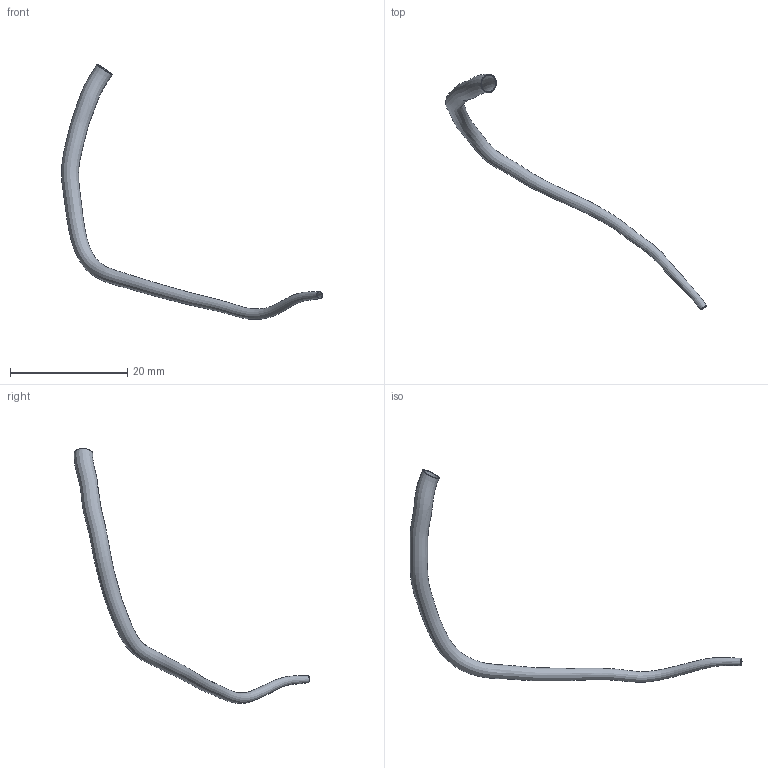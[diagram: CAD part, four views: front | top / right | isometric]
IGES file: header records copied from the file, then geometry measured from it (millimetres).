
Global section: file name: C:\Documents and Settings\Administrator\Desktop\FDA-Pig\Domestic LCA\Pig_000003\lad.seg.ed.igs; native system: Rhinoceros ( May 19 2006 ); preprocessor: Trout Lake IGES 012 May 19 2006; date: 111205.182822; units: centimetre
Bounding box: 44.55 x 40.13 x 43.49 mm (x, y, z)
Surface area: 1248.7 mm2 (no closed solid volume)
Topology: 0 solids, 0 shells, 4 faces, 12 edges, 8 vertices
Faces by surface type: bspline 4
